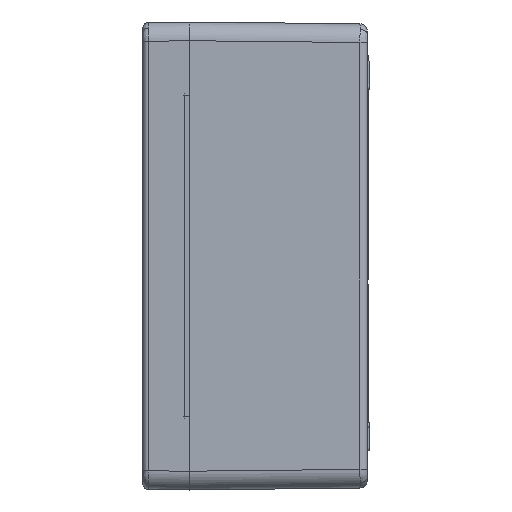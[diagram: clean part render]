
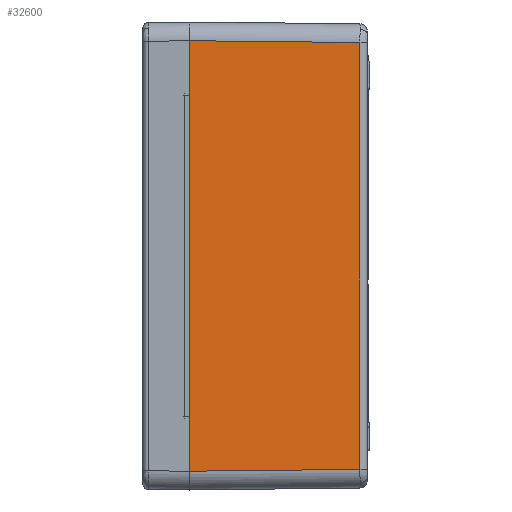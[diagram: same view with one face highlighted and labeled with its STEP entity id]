
A CAD part, left-side view. The second image highlights one B-rep face of the part: STEP entity #32600.
In plain terms, the highlighted planar face has unit normal (-1, -0.011, 0).
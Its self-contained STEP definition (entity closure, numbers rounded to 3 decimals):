
#47 = CARTESIAN_POINT ( 'NONE',  ( -299.974, -0.5, 114.974 ) ) ;
#2553 = CARTESIAN_POINT ( 'NONE',  ( -300., 2., -125. ) ) ;
#4288 = EDGE_CURVE ( 'NONE', #44363, #30845, #51822, .T. ) ;
#5117 = CARTESIAN_POINT ( 'NONE',  ( -299.974, -0.5, -114.974 ) ) ;
#6982 = DIRECTION ( 'NONE',  ( -1., -0.01, 0. ) ) ;
#8304 = CARTESIAN_POINT ( 'NONE',  ( -299.974, -0.513, 114.974 ) ) ;
#9823 = LINE ( 'NONE', #5117, #32774 ) ;
#12924 = DIRECTION ( 'NONE',  ( 0.01, -1., 0. ) ) ;
#15307 = FACE_OUTER_BOUND ( 'NONE', #43906, .T. ) ;
#15455 = EDGE_CURVE ( 'NONE', #30845, #23814, #22993, .T. ) ;
#16616 = CARTESIAN_POINT ( 'NONE',  ( -299.974, -0.5, -114.974 ) ) ;
#20667 = VERTEX_POINT ( 'NONE', #16616 ) ;
#22993 = LINE ( 'NONE', #42138, #60919 ) ;
#23814 = VERTEX_POINT ( 'NONE', #30494 ) ;
#26046 = LINE ( 'NONE', #41388, #28403 ) ;
#28403 = VECTOR ( 'NONE', #61129, 1000. ) ;
#30494 = CARTESIAN_POINT ( 'NONE',  ( -299.02, -91.542, -114.021 ) ) ;
#30845 = VERTEX_POINT ( 'NONE', #33052 ) ;
#32600 = ADVANCED_FACE ( 'NONE', ( #15307 ), #62887, .T. ) ;
#32774 = VECTOR ( 'NONE', #65275, 1000. ) ;
#33052 = CARTESIAN_POINT ( 'NONE',  ( -299.02, -91.542, 114.021 ) ) ;
#41388 = CARTESIAN_POINT ( 'NONE',  ( -299.974, -0.5, -125. ) ) ;
#42138 = CARTESIAN_POINT ( 'NONE',  ( -299.02, -91.542, -125. ) ) ;
#43906 = EDGE_LOOP ( 'NONE', ( #55283, #48939, #50424, #47646 ) ) ;
#44363 = VERTEX_POINT ( 'NONE', #47 ) ;
#47646 = ORIENTED_EDGE ( 'NONE', *, *, #15455, .F. ) ;
#48624 = VECTOR ( 'NONE', #58909, 1000. ) ;
#48939 = ORIENTED_EDGE ( 'NONE', *, *, #52009, .T. ) ;
#50424 = ORIENTED_EDGE ( 'NONE', *, *, #59789, .T. ) ;
#51580 = AXIS2_PLACEMENT_3D ( 'NONE', #2553, #6982, #12924 ) ;
#51822 = LINE ( 'NONE', #8304, #48624 ) ;
#52009 = EDGE_CURVE ( 'NONE', #44363, #20667, #26046, .T. ) ;
#55283 = ORIENTED_EDGE ( 'NONE', *, *, #4288, .F. ) ;
#58909 = DIRECTION ( 'NONE',  ( 0.01, -1., -0.01 ) ) ;
#59789 = EDGE_CURVE ( 'NONE', #20667, #23814, #9823, .T. ) ;
#60919 = VECTOR ( 'NONE', #62099, 1000. ) ;
#61129 = DIRECTION ( 'NONE',  ( 0., 0., -1. ) ) ;
#62099 = DIRECTION ( 'NONE',  ( 0., 0., -1. ) ) ;
#62887 = PLANE ( 'NONE',  #51580 ) ;
#65275 = DIRECTION ( 'NONE',  ( 0.01, -1., 0.01 ) ) ;
